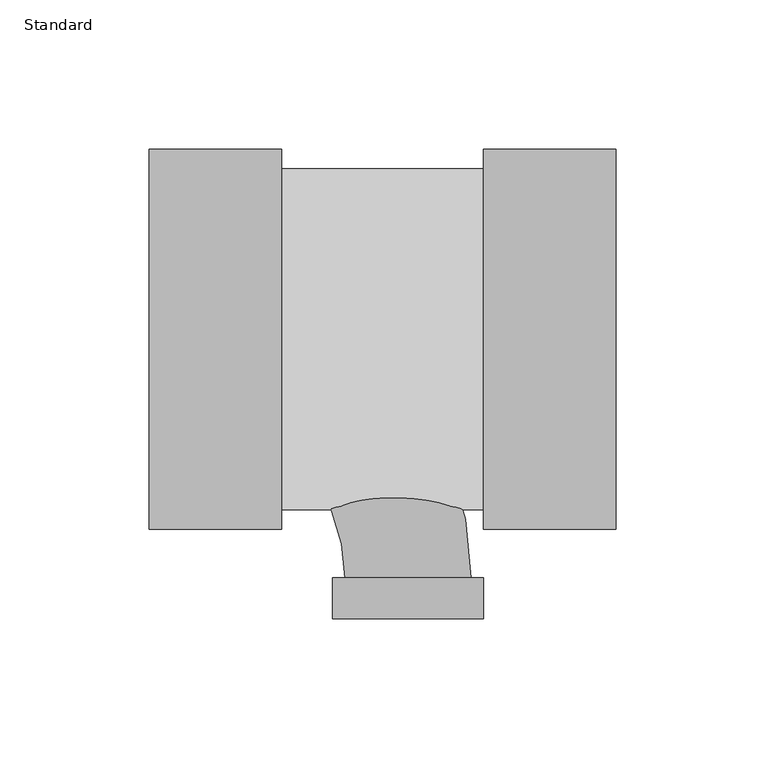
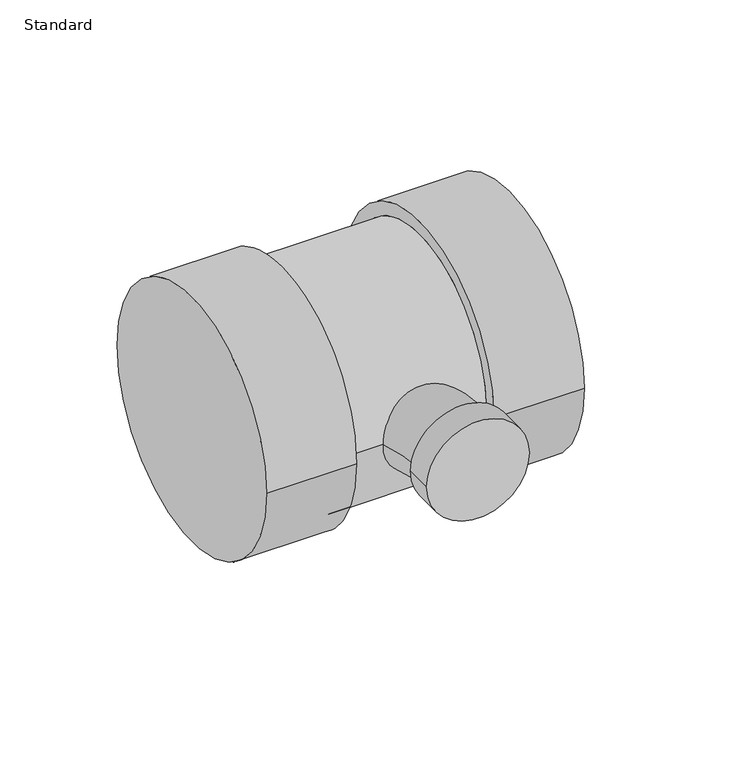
"""IFC4 building model written with IfcOpenShell, lengths in millimetres: pipe fitting geometry, EG-RCAN Té sanitaire de réduction - PVC - Nom. 40 - DWV : Standard."""

from ifc_helpers import new_model, si_unit, point, frame, origin, place, context, project, spatial, circle_curve, ellipse_curve, trimmed, source, transform, mapped, element, save
from ifc_brep_helpers import plane_surface, cylinder_surface, revolved_surface, advanced_brep


def standard_76decb9e(model_context):
    return source(origin(), model_context, "Body", "AdvancedBrep", [
        advanced_brep(
        [(25.2634197, -63.754, 0.0), (25.2634197, 63.754, 0.0), (25.2634197, -57.15, 0.0), (25.2634197, 57.15, 0.0), (69.7134197, -63.754, 0.0), (69.7134197, 63.754, 0.0), (-42.4599062, 57.15, 0.0), (-42.4599062, -57.15, 0.0), (-86.9099063, -63.754, 0.0), (-86.9099062, 63.754, 0.0), (-42.4599063, -63.754, 0.0), (-42.4599062, 63.754, 0.0)],
        [
            (0, 1, circle_curve(frame((25.2634197, 0.0, 0.0), z_axis=(-1.0, 0.0, 0.0), x_axis=(0.0, 1.0, 0.0)), 63.754)),
            (1, 0, circle_curve(frame((25.2634197, 0.0, 0.0), z_axis=(-1.0, 0.0, 0.0), x_axis=(0.0, 1.0, 0.0)), 63.754)),
            (2, 3, circle_curve(frame((25.2634197, 0.0, 0.0), z_axis=(1.0, 0.0, 0.0), x_axis=(0.0, 0.0, -1.0)), 57.15)),
            (3, 2, circle_curve(frame((25.2634197, 0.0, 0.0), z_axis=(1.0, 0.0, 0.0), x_axis=(0.0, 0.0, 1.0)), 57.15)),
            (4, 5, circle_curve(frame((69.7134197, 0.0, 0.0), z_axis=(1.0, 0.0, 0.0), x_axis=(0.0, 1.0, 0.0)), 63.754)),
            (5, 4, circle_curve(frame((69.7134197, 0.0, 0.0), z_axis=(1.0, 0.0, 0.0), x_axis=(0.0, 1.0, 0.0)), 63.754)),
            (0, 4),
            (5, 1),
            (6, 3),
            (2, 7),
            (7, 6, circle_curve(frame((-42.4599063, 0.0, 0.0), z_axis=(1.0, 0.0, 0.0), x_axis=(0.0, 0.0, -1.0)), 57.15)),
            (6, 7, circle_curve(frame((-42.4599062, 0.0, 0.0), z_axis=(1.0, 0.0, 0.0), x_axis=(0.0, 0.0, 1.0)), 57.15)),
            (8, 9, circle_curve(frame((-86.9099062, 0.0, 0.0), z_axis=(-1.0, 0.0, 0.0), x_axis=(0.0, 1.0, 0.0)), 63.754)),
            (9, 8, circle_curve(frame((-86.9099062, 0.0, 0.0), z_axis=(-1.0, 0.0, 0.0), x_axis=(0.0, 1.0, 0.0)), 63.754)),
            (10, 11, circle_curve(frame((-42.4599062, 0.0, 0.0), z_axis=(1.0, 0.0, 0.0), x_axis=(0.0, 1.0, 0.0)), 63.754)),
            (11, 10, circle_curve(frame((-42.4599062, 0.0, 0.0), z_axis=(1.0, 0.0, 0.0), x_axis=(0.0, 1.0, 0.0)), 63.754)),
            (8, 10),
            (11, 9),
        ],
        [
            plane_surface(frame((25.2634197, 0.0, 0.0), z_axis=(-1.0, 0.0, 0.0), x_axis=(0.0, 0.0, 1.0))),
            plane_surface(frame((69.7134197, 0.0, 0.0), z_axis=(1.0, 0.0, 0.0), x_axis=(0.0, 0.0, 1.0))),
            cylinder_surface(frame((25.2634197, 0.0, 0.0), z_axis=(-1.0, 0.0, 0.0), x_axis=(0.0, 1.0, 0.0)), 63.754),
            cylinder_surface(frame((-42.4599062, 0.0, 0.0), z_axis=(1.0, 0.0, 0.0), x_axis=(0.0, 0.0, -1.0)), 57.15),
            cylinder_surface(frame((-42.4599062, 0.0, 0.0), z_axis=(1.0, 0.0, 0.0), x_axis=(0.0, 0.0, 1.0)), 57.15),
            plane_surface(frame((-86.9099062, 0.0, 0.0), z_axis=(-1.0, 0.0, 0.0), x_axis=(0.0, 0.0, 1.0))),
            plane_surface(frame((-42.4599062, 0.0, 0.0), z_axis=(1.0, 0.0, 0.0), x_axis=(0.0, 0.0, 1.0))),
            cylinder_surface(frame((-86.9099062, 0.0, 0.0), z_axis=(-1.0, 0.0, 0.0), x_axis=(0.0, 1.0, 0.0)), 63.754),
        ],
        [
            (0, [[1, 2], [3, 4]]),
            (1, [[5, 6]]),
            (2, [[-1, 7, -6, 8]]),
            (2, [[-2, -8, -5, -7]]),
            (3, [[9, -3, 10, 11]]),
            (4, [[-9, 12, -10, -4]]),
            (5, [[13, 14]]),
            (6, [[15, 16], [-11, -12]]),
            (7, [[-13, 17, -16, 18]]),
            (7, [[-14, -18, -15, -17]]),
        ],
    ),
        advanced_brep(
        [(-25.270799, -80.0264912, 0.0), (25.2634197, -80.0288211, 0.0), (21.2003729, -80.0286338, 0.0), (-21.2077521, -80.0266786, 0.0), (-25.2714325, -93.7668037, 0.0), (25.2627862, -93.7691336, 0.0), (-80.0276562, -21.2040625, 0.0), (-80.0276562, 21.2040625, 0.0)],
        [
            (0, 1, circle_curve(frame((-0.0036896, -80.0276562, 0.0), z_axis=(4.6104263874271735e-05, 0.9999999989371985, 0.0), x_axis=(0.9999999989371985, -4.6104263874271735e-05, 0.0)), 25.2671094)),
            (1, 0, circle_curve(frame((-0.0036896, -80.0276562, 0.0), z_axis=(4.6104263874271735e-05, 0.9999999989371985, 0.0), x_axis=(0.9999999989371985, -4.6104263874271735e-05, 0.0)), 25.2671094)),
            (2, 3, circle_curve(frame((-0.0036896, -80.0276562, 0.0), z_axis=(-4.610426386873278e-05, -0.9999999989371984, 0.0), x_axis=(0.9999999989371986, -4.610426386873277e-05, 0.0)), 21.2040625)),
            (3, 2, circle_curve(frame((-0.0036896, -80.0276562, 0.0), z_axis=(-4.610426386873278e-05, -0.9999999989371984, 0.0), x_axis=(0.9999999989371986, -4.610426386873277e-05, 0.0)), 21.2040625)),
            (4, 5, circle_curve(frame((-0.0043231, -93.7679687, 0.0), z_axis=(-4.6104263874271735e-05, -0.9999999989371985, 0.0), x_axis=(0.9999999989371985, -4.6104263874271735e-05, 0.0)), 25.2671094)),
            (5, 4, circle_curve(frame((-0.0043231, -93.7679687, 0.0), z_axis=(-4.6104263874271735e-05, -0.9999999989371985, 0.0), x_axis=(0.9999999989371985, -4.6104263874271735e-05, 0.0)), 25.2671094)),
            (0, 4),
            (5, 1),
            (6, 7, circle_curve(frame((-80.0276562, 0.0, 0.0), z_axis=(-1.0000000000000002, 0.0, 0.0), x_axis=(0.0, 1.0, 0.0)), 21.2040625)),
            (7, 6, circle_curve(frame((-80.0276562, 0.0, 0.0), z_axis=(-1.0000000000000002, 0.0, 0.0), x_axis=(0.0, 1.0, 0.0)), 21.2040625)),
            (6, 3, circle_curve(frame((-80.0276562, -80.0239667, 0.0), z_axis=(0.0, 0.0, -1.0), x_axis=(0.0, 1.0, 0.0)), 58.8199042)),
            (2, 7, circle_curve(frame((-80.0276562, -80.0239667, 0.0), z_axis=(0.0, 0.0, 1.0), x_axis=(0.0, 1.0, 0.0)), 101.2280292)),
        ],
        [
            plane_surface(frame((-0.0036896, -80.0276562, 0.0), z_axis=(4.6104263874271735e-05, 0.9999999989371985, 0.0), x_axis=(0.0, 0.0, 1.0))),
            plane_surface(frame((-0.0043231, -93.7679687, 0.0), z_axis=(-4.6104263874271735e-05, -0.9999999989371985, 0.0), x_axis=(0.0, 0.0, 1.0))),
            cylinder_surface(frame((-0.0036896, -80.0276562, 0.0), z_axis=(4.6104263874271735e-05, 0.9999999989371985, 0.0), x_axis=(0.9999999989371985, -4.6104263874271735e-05, 0.0)), 25.2671094),
            plane_surface(frame((-80.0276562, 0.0, 0.0), z_axis=(-1.0, 0.0, 0.0), x_axis=(0.0, 0.0, 1.0))),
            revolved_surface(trimmed(ellipse_curve(frame((-80.0276562, 0.0, 0.0), z_axis=(-1.0000000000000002, 0.0, 0.0), x_axis=(0.0, 1.0, 0.0)), 21.2040625, 21.2040625), [point((-80.0276562, -21.2040625, 0.0))], [point((-80.0276562, 21.2040625, 0.0))], True, "CARTESIAN"), (-80.0276562, -80.0239667, 0.0), (0.0, 0.0, -1.0000000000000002)),
            revolved_surface(trimmed(ellipse_curve(frame((-80.0276562, 0.0, 0.0), z_axis=(-1.0000000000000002, 0.0, 0.0), x_axis=(0.0, 1.0, 0.0)), 21.2040625, 21.2040625), [point((-80.0276562, 21.2040625, 0.0))], [point((-80.0276562, -21.2040625, 0.0))], True, "CARTESIAN"), (-80.0276562, -80.0239667, 0.0), (0.0, 0.0, -1.0000000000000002)),
        ],
        [
            (0, [[1, 2], [3, 4]]),
            (1, [[5, 6]]),
            (2, [[-1, 7, -6, 8]]),
            (2, [[-2, -8, -5, -7]]),
            (3, [[9, 10]]),
            (4, [[-9, 11, -3, 12]]),
            (5, [[-10, -12, -4, -11]]),
        ],
    ),
    ])


if __name__ == "__main__":
    model = new_model("IFC4")
    model_context = context("Model", 3, world=origin())
    ifc_project = project(units=[si_unit("LENGTHUNIT", "METRE", prefix="MILLI")], contexts=[model_context])
    site = spatial("IfcSite", under=ifc_project)
    building = spatial("IfcBuilding", under=site)
    placement = place(None, origin())
    standard_shape = standard_76decb9e(model_context)
    element("IfcPipeFitting", 1, ObjectType="EG-RCAN Té sanitaire de réduction - PVC - Nom. 40 - DWV : Standard", at=placement, inside=building, context=model_context, shape_type="MappedRepresentation", body=[
        mapped(standard_shape, transform((0.0, 0.0, 0.0), x_axis=(1.0, 0.0, 0.0), y_axis=(0.0, 1.0, 0.0), z_axis=(0.0, 0.0, 1.0))),
    ])
    save(model, "model.ifc")
